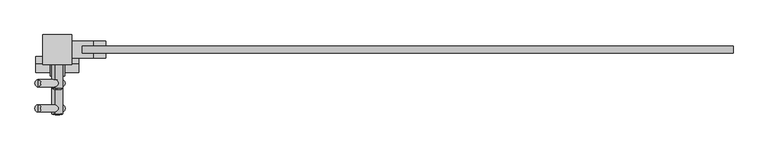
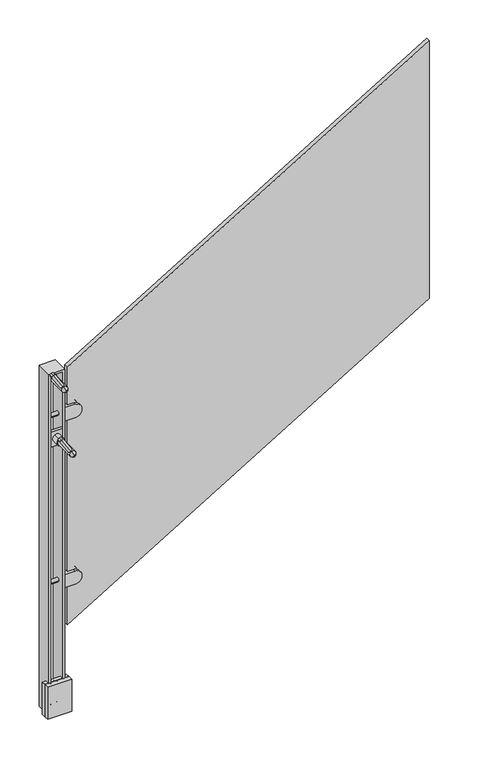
"""IFC4 building model written with IfcOpenShell, lengths in millimetres: proxy geometry, LIVERS_ICN - Glass Panel : LIVERS_ICN - Glass Panel."""

from ifc_helpers import new_model, si_unit, point, frame, origin, place, context, project, spatial, polyline, circle_curve, ellipse_curve, trimmed, outline, extrude, faceted_brep, source, transform, mapped, element, save
from ifc_brep_helpers import plane_surface, cylinder_surface, revolved_surface, advanced_brep


def building_element_proxy_f8103633(model_context):
    return source(origin(), model_context, "Body", "SolidModel", [
        advanced_brep(
        [(6.1227021, 60.3249609, 622.4662882), (12.8526767, 60.3249609, 611.6960774), (19.5826514, 60.3249609, 600.9258666), (6.1227021, 38.0999609, 622.4662882), (19.5826514, 38.0999609, 600.9258666), (12.8526767, 38.0999609, 611.6960774)],
        [
            (0, 1),
            (1, 2),
            (2, 0, circle_curve(frame((12.8526767, 60.3249609, 611.6960774), z_axis=(0.0, 1.0, 0.0), x_axis=(0.5299192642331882, 0.0, -0.8480480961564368)), 12.7)),
            (0, 2, circle_curve(frame((12.8526767, 60.3249609, 611.6960774), z_axis=(0.0, 1.0, 0.0), x_axis=(0.5299192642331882, 0.0, -0.8480480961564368)), 12.7)),
            (3, 0),
            (2, 4),
            (4, 3, circle_curve(frame((12.8526767, 38.0999609, 611.6960774), z_axis=(0.0, 1.0, 0.0), x_axis=(0.5299192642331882, 0.0, -0.8480480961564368)), 12.7)),
            (3, 4, circle_curve(frame((12.8526767, 38.0999609, 611.6960774), z_axis=(0.0, 1.0, 0.0), x_axis=(0.5299192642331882, 0.0, -0.8480480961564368)), 12.7)),
            (5, 3),
            (4, 5),
        ],
        [
            plane_surface(frame((12.8526767, 60.3249609, 611.6960774), z_axis=(0.0, 1.0000000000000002, 0.0), x_axis=(0.5299192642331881, 0.0, -0.8480480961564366))),
            cylinder_surface(frame((12.8526767, 69.3828283, 611.6960774), z_axis=(0.0, -1.0000000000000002, 0.0), x_axis=(0.5299192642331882, 0.0, -0.8480480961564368)), 12.7),
            plane_surface(frame((12.8526767, 38.0999609, 611.6960774), z_axis=(0.0, -1.0000000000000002, 0.0), x_axis=(0.5299192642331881, 0.0, -0.8480480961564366))),
        ],
        [
            (0, [[1, 2, 3]]),
            (0, [[-2, -1, 4]]),
            (1, [[5, -3, 6, 7]]),
            (1, [[-6, -4, -5, 8]]),
            (2, [[9, -7, 10]]),
            (2, [[-10, -8, -9]]),
        ],
    ),
        advanced_brep(
        [(-21.4149935, -25.4004131, 666.5358134), (-21.4149935, -19.0504161, 666.5358134), (-21.4149935, -12.7004191, 666.5358134), (21.1884318, -25.4004131, 598.3560808), (21.1884318, -12.7004191, 598.3560808), (21.1884318, -19.0504161, 598.3560808)],
        [
            (0, 1),
            (1, 2),
            (2, 0, circle_curve(frame((-21.4149935, -19.0504161, 666.5358134), z_axis=(-0.5299192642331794, 0.0, 0.8480480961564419), x_axis=(0.0, 1.0000000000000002, 0.0)), 6.349997)),
            (0, 2, circle_curve(frame((-21.4149935, -19.0504161, 666.5358134), z_axis=(-0.5299192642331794, 0.0, 0.8480480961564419), x_axis=(0.0, 1.0000000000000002, 0.0)), 6.349997)),
            (3, 0),
            (2, 4),
            (4, 3, circle_curve(frame((21.1884318, -19.0504161, 598.3560808), z_axis=(-0.5299192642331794, 0.0, 0.8480480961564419), x_axis=(0.0, 1.0000000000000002, 0.0)), 6.349997)),
            (3, 4, circle_curve(frame((21.1884318, -19.0504161, 598.3560808), z_axis=(-0.5299192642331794, 0.0, 0.8480480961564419), x_axis=(0.0, 1.0000000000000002, 0.0)), 6.349997)),
            (5, 3),
            (4, 5),
        ],
        [
            plane_surface(frame((-21.4149935, -19.0504161, 666.5358134), z_axis=(-0.5299192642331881, 0.0, 0.8480480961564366), x_axis=(0.0, 1.0, 0.0))),
            cylinder_surface(frame((-28.754909, -19.0504161, 678.2821334), z_axis=(0.5299192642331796, 0.0, -0.8480480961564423), x_axis=(0.0, 1.0000000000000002, 0.0)), 6.349997),
            plane_surface(frame((21.1884318, -19.0504161, 598.3560808), z_axis=(0.5299192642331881, 0.0, -0.8480480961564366), x_axis=(0.0, 1.0, 0.0))),
        ],
        [
            (0, [[1, 2, 3]]),
            (0, [[-2, -1, 4]]),
            (1, [[5, -3, 6, 7]]),
            (1, [[-6, -4, -5, 8]]),
            (2, [[9, -7, 10]]),
            (2, [[-10, -8, -9]]),
        ],
    ),
        advanced_brep(
        [(12.8526767, -30.1375464, 611.6960774), (7.8051957, -28.5500464, 619.7737355), (17.9001577, -28.5500464, 603.6184193), (7.8051957, 38.0999609, 619.7737355), (12.8526767, 38.0999609, 611.6960774), (17.9001577, 38.0999609, 603.6184193)],
        [
            (0, 1, circle_curve(frame((12.8526767, -0.7687964, 611.6960774), z_axis=(-0.848048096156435, 0.0, -0.5299192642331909), x_axis=(0.0, 1.0000000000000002, 0.0)), 29.36875)),
            (1, 2, circle_curve(frame((12.8526767, -28.5500464, 611.6960774), z_axis=(0.0, -1.0, 0.0), x_axis=(0.5299192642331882, 0.0, -0.8480480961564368)), 9.525)),
            (2, 0, circle_curve(frame((12.8526767, -0.7687964, 611.6960774), z_axis=(-0.8480480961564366, 0.0, -0.5299192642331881), x_axis=(0.0, 1.0000000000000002, 0.0)), 29.36875)),
            (2, 1, circle_curve(frame((12.8526767, -28.5500464, 611.6960774), z_axis=(0.0, -1.0, 0.0), x_axis=(0.5299192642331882, 0.0, -0.8480480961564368)), 9.525)),
            (3, 4),
            (4, 5),
            (5, 3, circle_curve(frame((12.8526767, 38.0999609, 611.6960774), z_axis=(0.0, 1.0, 0.0), x_axis=(0.5299192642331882, 0.0, -0.8480480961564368)), 9.525)),
            (3, 5, circle_curve(frame((12.8526767, 38.0999609, 611.6960774), z_axis=(0.0, 1.0, 0.0), x_axis=(0.5299192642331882, 0.0, -0.8480480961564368)), 9.525)),
            (1, 3),
            (5, 2),
        ],
        [
            revolved_surface(trimmed(ellipse_curve(frame((12.8526767, -0.7687964, 611.6960774), z_axis=(-0.8480480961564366, 0.0, -0.5299192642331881), x_axis=(0.0, 1.0000000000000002, 0.0)), 29.36875, 29.36875), [point((17.9001577, -28.5500464, 603.6184193))], [point((12.8526767, -30.1375464, 611.6960774))], True, "CARTESIAN"), (12.8526767, 30.3031204, 611.6960774), (0.0, -1.0000000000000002, 0.0)),
            plane_surface(frame((12.8526767, 38.0999609, 611.6960774), z_axis=(0.0, 1.0000000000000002, 0.0), x_axis=(0.5299192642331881, 0.0, -0.8480480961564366))),
            cylinder_surface(frame((12.8526767, 30.3031204, 611.6960774), z_axis=(0.0, -1.0000000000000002, 0.0), x_axis=(0.5299192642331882, 0.0, -0.8480480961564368)), 9.525),
        ],
        [
            (0, [[1, 2, 3]]),
            (0, [[-3, 4, -1]]),
            (1, [[5, 6, 7]]),
            (1, [[-6, -5, 8]]),
            (2, [[9, -7, 10, -2]]),
            (2, [[-10, -8, -9, -4]]),
        ],
    ),
        extrude(outline(polyline([(31.9026767, 66.6749609), (31.9026767, 60.3249609), (-6.1973233, 60.3249609), (-6.1973233, 66.6749609), (31.9026767, 66.6749609)])), frame((0.0, 0.0, 586.2960774), z_axis=(0.0, 0.0, 1.0), x_axis=(1.0, 0.0, 0.0)), (0.0, 0.0, 1.0), 50.8),
        advanced_brep(
        [(6.1227021, 15.875, 433.0809858), (12.8526767, 15.875, 422.3107749), (19.5826514, 15.875, 411.5405641), (6.1227021, -6.35, 433.0809858), (19.5826514, -6.35, 411.5405641), (12.8526767, -6.35, 422.3107749)],
        [
            (0, 1),
            (1, 2),
            (2, 0, circle_curve(frame((12.8526767, 15.875, 422.3107749), z_axis=(0.0, 1.0, 0.0), x_axis=(0.5299192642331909, 0.0, -0.8480480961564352)), 12.7)),
            (0, 2, circle_curve(frame((12.8526767, 15.875, 422.3107749), z_axis=(0.0, 1.0, 0.0), x_axis=(0.5299192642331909, 0.0, -0.8480480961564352)), 12.7)),
            (3, 0),
            (2, 4),
            (4, 3, circle_curve(frame((12.8526767, -6.35, 422.3107749), z_axis=(0.0, 1.0, 0.0), x_axis=(0.5299192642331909, 0.0, -0.8480480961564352)), 12.7)),
            (3, 4, circle_curve(frame((12.8526767, -6.35, 422.3107749), z_axis=(0.0, 1.0, 0.0), x_axis=(0.5299192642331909, 0.0, -0.8480480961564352)), 12.7)),
            (5, 3),
            (4, 5),
        ],
        [
            plane_surface(frame((12.8526767, 15.875, 422.3107749), z_axis=(0.0, 1.0000000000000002, 0.0), x_axis=(0.5299192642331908, 0.0, -0.848048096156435))),
            cylinder_surface(frame((12.8526767, 24.9328674, 422.3107749), z_axis=(0.0, -1.0000000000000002, 0.0), x_axis=(0.5299192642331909, 0.0, -0.8480480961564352)), 12.7),
            plane_surface(frame((12.8526767, -6.35, 422.3107749), z_axis=(0.0, -1.0000000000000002, 0.0), x_axis=(0.5299192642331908, 0.0, -0.848048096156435))),
        ],
        [
            (0, [[1, 2, 3]]),
            (0, [[-2, -1, 4]]),
            (1, [[5, -3, 6, 7]]),
            (1, [[-6, -4, -5, 8]]),
            (2, [[9, -7, 10]]),
            (2, [[-10, -8, -9]]),
        ],
    ),
        advanced_brep(
        [(-21.4149935, -69.850374, 477.1505109), (-21.4149935, -63.500377, 477.1505109), (-21.4149935, -57.15038, 477.1505109), (21.1884318, -69.850374, 408.9707783), (21.1884318, -57.15038, 408.9707783), (21.1884318, -63.500377, 408.9707783)],
        [
            (0, 1),
            (1, 2),
            (2, 0, circle_curve(frame((-21.4149935, -63.500377, 477.1505109), z_axis=(-0.529919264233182, 0.0, 0.8480480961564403), x_axis=(0.0, 1.0000000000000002, 0.0)), 6.349997)),
            (0, 2, circle_curve(frame((-21.4149935, -63.500377, 477.1505109), z_axis=(-0.529919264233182, 0.0, 0.8480480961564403), x_axis=(0.0, 1.0000000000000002, 0.0)), 6.349997)),
            (3, 0),
            (2, 4),
            (4, 3, circle_curve(frame((21.1884318, -63.500377, 408.9707783), z_axis=(-0.529919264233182, 0.0, 0.8480480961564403), x_axis=(0.0, 1.0000000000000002, 0.0)), 6.349997)),
            (3, 4, circle_curve(frame((21.1884318, -63.500377, 408.9707783), z_axis=(-0.529919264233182, 0.0, 0.8480480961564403), x_axis=(0.0, 1.0000000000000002, 0.0)), 6.349997)),
            (5, 3),
            (4, 5),
        ],
        [
            plane_surface(frame((-21.4149935, -63.500377, 477.1505109), z_axis=(-0.5299192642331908, 0.0, 0.848048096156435), x_axis=(0.0, 1.0, 0.0))),
            cylinder_surface(frame((-28.754909, -63.500377, 488.8968309), z_axis=(0.5299192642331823, 0.0, -0.8480480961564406), x_axis=(0.0, 1.0000000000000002, 0.0)), 6.349997),
            plane_surface(frame((21.1884318, -63.500377, 408.9707783), z_axis=(0.5299192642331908, 0.0, -0.848048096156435), x_axis=(0.0, 1.0, 0.0))),
        ],
        [
            (0, [[1, 2, 3]]),
            (0, [[-2, -1, 4]]),
            (1, [[5, -3, 6, 7]]),
            (1, [[-6, -4, -5, 8]]),
            (2, [[9, -7, 10]]),
            (2, [[-10, -8, -9]]),
        ],
    ),
        advanced_brep(
        [(12.8526767, -74.5875073, 422.3107749), (7.8051957, -73.0000073, 430.388433), (17.9001577, -73.0000073, 414.2331168), (7.8051957, -6.35, 430.388433), (12.8526767, -6.35, 422.3107749), (17.9001577, -6.35, 414.2331168)],
        [
            (0, 1, circle_curve(frame((12.8526767, -45.2187573, 422.3107749), z_axis=(-0.8480480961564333, 0.0, -0.5299192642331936), x_axis=(0.0, 1.0000000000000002, 0.0)), 29.36875)),
            (1, 2, circle_curve(frame((12.8526767, -73.0000073, 422.3107749), z_axis=(0.0, -1.0, 0.0), x_axis=(0.5299192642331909, 0.0, -0.8480480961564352)), 9.525)),
            (2, 0, circle_curve(frame((12.8526767, -45.2187573, 422.3107749), z_axis=(-0.848048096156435, 0.0, -0.5299192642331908), x_axis=(0.0, 1.0000000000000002, 0.0)), 29.36875)),
            (2, 1, circle_curve(frame((12.8526767, -73.0000073, 422.3107749), z_axis=(0.0, -1.0, 0.0), x_axis=(0.5299192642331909, 0.0, -0.8480480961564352)), 9.525)),
            (3, 4),
            (4, 5),
            (5, 3, circle_curve(frame((12.8526767, -6.35, 422.3107749), z_axis=(0.0, 1.0, 0.0), x_axis=(0.5299192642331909, 0.0, -0.8480480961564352)), 9.525)),
            (3, 5, circle_curve(frame((12.8526767, -6.35, 422.3107749), z_axis=(0.0, 1.0, 0.0), x_axis=(0.5299192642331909, 0.0, -0.8480480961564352)), 9.525)),
            (1, 3),
            (5, 2),
        ],
        [
            revolved_surface(trimmed(ellipse_curve(frame((12.8526767, -45.2187573, 422.3107749), z_axis=(-0.848048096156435, 0.0, -0.5299192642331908), x_axis=(0.0, 1.0000000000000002, 0.0)), 29.36875, 29.36875), [point((17.9001577, -73.0000073, 414.2331168))], [point((12.8526767, -74.5875073, 422.3107749))], True, "CARTESIAN"), (12.8526767, -14.1468405, 422.3107749), (0.0, -1.0000000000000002, 0.0)),
            plane_surface(frame((12.8526767, -6.35, 422.3107749), z_axis=(0.0, 1.0000000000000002, 0.0), x_axis=(0.5299192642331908, 0.0, -0.848048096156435))),
            cylinder_surface(frame((12.8526767, -14.1468405, 422.3107749), z_axis=(0.0, -1.0000000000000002, 0.0), x_axis=(0.5299192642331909, 0.0, -0.8480480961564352)), 9.525),
        ],
        [
            (0, [[1, 2, 3]]),
            (0, [[-3, 4, -1]]),
            (1, [[5, 6, 7]]),
            (1, [[-6, -5, 8]]),
            (2, [[9, -7, 10, -2]]),
            (2, [[-10, -8, -9, -4]]),
        ],
    ),
        extrude(outline(polyline([(31.9026767, 22.225), (31.9026767, 15.875), (-6.1973233, 15.875), (-6.1973233, 22.225), (31.9026767, 22.225)])), frame((0.0, 0.0, 396.9107749), z_axis=(0.0, 0.0, 1.0), x_axis=(1.0, 0.0, 0.0)), (0.0, 0.0, 1.0), 50.8),
        advanced_brep(
        [(38.2526767, 55.5624457, -53.2850579), (38.2526767, 55.5624457, -97.7350579), (38.2526767, 25.3999457, -97.7350579), (38.2526767, 25.3999457, -53.2850579), (76.4537707, 55.5624457, -53.2850579), (76.4537707, 55.5624457, -97.7350579), (76.4537707, 46.8311957, -97.7350579), (57.124596, 46.8311957, -97.7350579), (57.124596, 34.1311957, -97.7350579), (76.4537707, 34.1311957, -97.7350579), (76.4537707, 25.3999457, -97.7350579), (76.4537707, 25.3999457, -53.2850579), (76.4537707, 34.1311957, -53.2850579), (57.124596, 34.1311957, -53.2850579), (57.124596, 46.8311957, -53.2850579), (76.4537707, 46.8311957, -53.2850579)],
        [
            (0, 1),
            (1, 2),
            (2, 3),
            (3, 0),
            (0, 4),
            (4, 5, circle_curve(frame((76.4537707, 55.5624457, -75.5100579), z_axis=(0.0, 1.0, 0.0), x_axis=(0.0, 0.0, -1.0)), 22.225)),
            (5, 1),
            (5, 6),
            (6, 7),
            (7, 8),
            (8, 9),
            (9, 10),
            (10, 2),
            (10, 11, circle_curve(frame((76.4537707, 25.3999457, -75.5100579), z_axis=(0.0, -1.0, 0.0), x_axis=(0.0, 0.0, -1.0)), 22.225)),
            (11, 3),
            (11, 12),
            (12, 13),
            (13, 14),
            (14, 15),
            (15, 4),
            (13, 8),
            (7, 14),
            (6, 15, circle_curve(frame((76.4537707, 46.8311957, -75.5100579), z_axis=(0.0, -1.0, 0.0), x_axis=(0.0, 0.0, -1.0)), 22.225)),
            (12, 9, circle_curve(frame((76.4537707, 34.1311957, -75.5100579), z_axis=(0.0, 1.0, 0.0), x_axis=(0.0, 0.0, -1.0)), 22.225)),
        ],
        [
            plane_surface(frame((38.2526767, 55.5624457, -97.7350579), z_axis=(-1.0, 0.0, 0.0), x_axis=(0.0, 0.0, 1.0))),
            plane_surface(frame((98.7557575, 55.5624457, -53.2850579), z_axis=(0.0, 1.0, 0.0), x_axis=(-1.0, 0.0, 0.0))),
            plane_surface(frame((98.7557575, 55.5624457, -97.7350579), z_axis=(0.0, 0.0, -1.0), x_axis=(-1.0, 0.0, 0.0))),
            plane_surface(frame((98.7557575, 25.3999457, -97.7350579), z_axis=(0.0, -1.0, 0.0), x_axis=(-1.0, 0.0, 0.0))),
            plane_surface(frame((98.7557575, 25.3999457, -53.2850579), z_axis=(0.0, 0.0, 1.0), x_axis=(-1.0, 0.0, 0.0))),
            plane_surface(frame((57.124596, 46.8311957, -97.7350579), z_axis=(1.0, 0.0, 0.0), x_axis=(0.0, 0.0, 1.0))),
            plane_surface(frame((98.7557575, 46.8311957, -53.2850579), z_axis=(0.0, -1.0, 0.0), x_axis=(-1.0, 0.0, 0.0))),
            plane_surface(frame((98.7557575, 34.1311957, -97.7350579), z_axis=(0.0, 1.0, 0.0), x_axis=(-1.0, 0.0, 0.0))),
            cylinder_surface(frame((76.4537707, 55.5624457, -75.5100579), z_axis=(0.0, 1.0, 0.0), x_axis=(0.0, 0.0, -1.0)), 22.225),
        ],
        [
            (0, [[1, 2, 3, 4]]),
            (1, [[5, 6, 7, -1]]),
            (2, [[-7, 8, 9, 10, 11, 12, 13, -2]]),
            (3, [[-13, 14, 15, -3]]),
            (4, [[-15, 16, 17, 18, 19, 20, -5, -4]]),
            (5, [[-18, 21, -10, 22]]),
            (6, [[-9, 23, -19, -22]]),
            (7, [[-17, 24, -11, -21]]),
            (8, [[-20, -23, -8, -6]]),
            (8, [[-24, -16, -14, -12]]),
        ],
    ),
        advanced_brep(
        [(38.2526767, 55.5624457, 505.5149421), (38.2526767, 55.5624457, 461.0649421), (38.2526767, 25.3999457, 461.0649421), (38.2526767, 25.3999457, 505.5149421), (76.4537707, 55.5624457, 505.5149421), (76.4537707, 55.5624457, 461.0649421), (76.4537707, 46.8311957, 461.0649421), (57.124596, 46.8311957, 461.0649421), (57.124596, 34.1311957, 461.0649421), (76.4537707, 34.1311957, 461.0649421), (76.4537707, 25.3999457, 461.0649421), (76.4537707, 25.3999457, 505.5149421), (76.4537707, 34.1311957, 505.5149421), (57.124596, 34.1311957, 505.5149421), (57.124596, 46.8311957, 505.5149421), (76.4537707, 46.8311957, 505.5149421)],
        [
            (0, 1),
            (1, 2),
            (2, 3),
            (3, 0),
            (0, 4),
            (4, 5, circle_curve(frame((76.4537707, 55.5624457, 483.2899421), z_axis=(0.0, 1.0, 0.0), x_axis=(0.0, 0.0, -1.0)), 22.225)),
            (5, 1),
            (5, 6),
            (6, 7),
            (7, 8),
            (8, 9),
            (9, 10),
            (10, 2),
            (10, 11, circle_curve(frame((76.4537707, 25.3999457, 483.2899421), z_axis=(0.0, -1.0, 0.0), x_axis=(0.0, 0.0, -1.0)), 22.225)),
            (11, 3),
            (11, 12),
            (12, 13),
            (13, 14),
            (14, 15),
            (15, 4),
            (13, 8),
            (7, 14),
            (6, 15, circle_curve(frame((76.4537707, 46.8311957, 483.2899421), z_axis=(0.0, -1.0, 0.0), x_axis=(0.0, 0.0, -1.0)), 22.225)),
            (12, 9, circle_curve(frame((76.4537707, 34.1311957, 483.2899421), z_axis=(0.0, 1.0, 0.0), x_axis=(0.0, 0.0, -1.0)), 22.225)),
        ],
        [
            plane_surface(frame((38.2526767, 55.5624457, 461.0649421), z_axis=(-1.0, 0.0, 0.0), x_axis=(0.0, 0.0, 1.0))),
            plane_surface(frame((98.7557575, 55.5624457, 505.5149421), z_axis=(0.0, 1.0, 0.0), x_axis=(-1.0, 0.0, 0.0))),
            plane_surface(frame((98.7557575, 55.5624457, 461.0649421), z_axis=(0.0, 0.0, -1.0), x_axis=(-1.0, 0.0, 0.0))),
            plane_surface(frame((98.7557575, 25.3999457, 461.0649421), z_axis=(0.0, -1.0, 0.0), x_axis=(-1.0, 0.0, 0.0))),
            plane_surface(frame((98.7557575, 25.3999457, 505.5149421), z_axis=(0.0, 0.0, 1.0), x_axis=(-1.0, 0.0, 0.0))),
            plane_surface(frame((57.124596, 46.8311957, 461.0649421), z_axis=(1.0, 0.0, 0.0), x_axis=(0.0, 0.0, 1.0))),
            plane_surface(frame((98.7557575, 46.8311957, 505.5149421), z_axis=(0.0, -1.0, 0.0), x_axis=(-1.0, 0.0, 0.0))),
            plane_surface(frame((98.7557575, 34.1311957, 461.0649421), z_axis=(0.0, 1.0, 0.0), x_axis=(-1.0, 0.0, 0.0))),
            cylinder_surface(frame((76.4537707, 55.5624457, 483.2899421), z_axis=(0.0, 1.0, 0.0), x_axis=(0.0, 0.0, -1.0)), 22.225),
        ],
        [
            (0, [[1, 2, 3, 4]]),
            (1, [[5, 6, 7, -1]]),
            (2, [[-7, 8, 9, 10, 11, 12, 13, -2]]),
            (3, [[-13, 14, 15, -3]]),
            (4, [[-15, 16, 17, 18, 19, 20, -5, -4]]),
            (5, [[-18, 21, -10, 22]]),
            (6, [[-9, 23, -19, -22]]),
            (7, [[-17, 24, -11, -21]]),
            (8, [[-20, -23, -8, -6]]),
            (8, [[-24, -16, -14, -12]]),
        ],
    ),
        advanced_brep(
        [(12.8526767, 28.575, -492.1760914), (12.8526767, 29.7562407, -492.1760914), (12.8526767, 29.7562407, -469.9510802), (12.8526767, 28.575, -469.9510802), (12.8526767, 28.575, -481.0635858), (12.8526767, 32.325, -486.6760914), (12.8526767, 30.8816229, -481.0635858), (12.8526767, 32.325, -475.4510802), (12.8526767, 34.8740117, -486.6760914), (12.8526767, 34.8740117, -475.4510802), (12.8526767, 33.8500285, -489.6240978), (12.8526767, 33.8500285, -472.5030739), (12.8526767, 31.8562692, -491.3823737), (12.8526767, 31.8562692, -470.7447979)],
        [
            (0, 1),
            (1, 2, circle_curve(frame((12.8526767, 29.7562407, -481.0635858), z_axis=(0.0, -1.0, 0.0), x_axis=(0.0, 0.0, 1.0)), 11.1125056)),
            (2, 3),
            (3, 0, circle_curve(frame((12.8526767, 28.575, -481.0635858), z_axis=(0.0, 1.0, 0.0), x_axis=(0.0, 0.0, 1.0)), 11.1125056)),
            (2, 1, circle_curve(frame((12.8526767, 29.7562407, -481.0635858), z_axis=(0.0, -1.0, 0.0), x_axis=(0.0, 0.0, 1.0)), 11.1125056)),
            (0, 3, circle_curve(frame((12.8526767, 28.575, -481.0635858), z_axis=(0.0, 1.0, 0.0), x_axis=(0.0, 0.0, 1.0)), 11.1125056)),
            (4, 0),
            (3, 4),
            (5, 6),
            (6, 7),
            (7, 5, circle_curve(frame((12.8526767, 32.325, -481.0635858), z_axis=(0.0, 1.0, 0.0), x_axis=(0.0, 0.0, 1.0)), 5.6125056)),
            (5, 7, circle_curve(frame((12.8526767, 32.325, -481.0635858), z_axis=(0.0, 1.0, 0.0), x_axis=(0.0, 0.0, 1.0)), 5.6125056)),
            (8, 5),
            (7, 9),
            (9, 8, circle_curve(frame((12.8526767, 34.8740117, -481.0635858), z_axis=(0.0, 1.0, 0.0), x_axis=(0.0, 0.0, 1.0)), 5.6125056)),
            (8, 9, circle_curve(frame((12.8526767, 34.8740117, -481.0635858), z_axis=(0.0, 1.0, 0.0), x_axis=(0.0, 0.0, 1.0)), 5.6125056)),
            (10, 8, circle_curve(frame((12.8526767, 31.75, -487.2428155), z_axis=(1.0, 0.0, 0.0), x_axis=(0.0, -1.0, 0.0)), 3.175)),
            (9, 11, circle_curve(frame((12.8526767, 31.75, -474.8843562), z_axis=(1.0, 0.0, 0.0), x_axis=(0.0, -1.0, 0.0)), 3.175)),
            (11, 10, circle_curve(frame((12.8526767, 33.8500285, -481.0635858), z_axis=(0.0, 1.0, 0.0), x_axis=(0.0, 0.0, 1.0)), 8.560512)),
            (10, 11, circle_curve(frame((12.8526767, 33.8500285, -481.0635858), z_axis=(0.0, 1.0, 0.0), x_axis=(0.0, 0.0, 1.0)), 8.560512)),
            (12, 10),
            (11, 13),
            (13, 12, circle_curve(frame((12.8526767, 31.8562692, -481.0635858), z_axis=(0.0, 1.0, 0.0), x_axis=(0.0, 0.0, 1.0)), 10.3187879)),
            (12, 13, circle_curve(frame((12.8526767, 31.8562692, -481.0635858), z_axis=(0.0, 1.0, 0.0), x_axis=(0.0, 0.0, 1.0)), 10.3187879)),
            (1, 12, circle_curve(frame((12.8526767, 29.7562407, -489.0010914), z_axis=(1.0, 0.0, 0.0), x_axis=(0.0, -1.0, 0.0)), 3.175)),
            (13, 2, circle_curve(frame((12.8526767, 29.7562407, -473.1260802), z_axis=(1.0, 0.0, 0.0), x_axis=(0.0, -1.0, 0.0)), 3.175)),
        ],
        [
            cylinder_surface(frame((12.8526767, 28.575, -481.0635858), z_axis=(0.0, -1.0, 0.0), x_axis=(0.0, 0.0, 1.0)), 11.1125056),
            plane_surface(frame((12.8526767, 28.575, -481.0635858), z_axis=(0.0, -1.0, 0.0), x_axis=(0.0, 0.0, 1.0))),
            revolved_surface(polyline([(12.8526767, 30.8816229, -481.0635858), (12.8526767, 32.325, -475.4510802)]), (12.8526767, 28.575, -481.0635858), (0.0, -1.0, 0.0)),
            revolved_surface(polyline([(12.8526767, 32.325, -475.4510802), (12.8526767, 34.8740117, -475.4510802)]), (12.8526767, 28.575, -481.0635858), (0.0, -1.0, 0.0)),
            revolved_surface(trimmed(ellipse_curve(frame((12.8526767, 31.75, -474.8843562), z_axis=(1.0, 0.0, 0.0), x_axis=(0.0, -1.0, 0.0)), 3.175, 3.175), [point((12.8526767, 34.8740117, -475.4510802))], [point((12.8526767, 33.8500285, -472.5030739))], True, "CARTESIAN"), (12.8526767, 28.575, -481.0635858), (0.0, -1.0, 0.0)),
            revolved_surface(polyline([(12.8526767, 33.8500285, -472.5030739), (12.8526767, 31.8562692, -470.7447979)]), (12.8526767, 28.575, -481.0635858), (0.0, -1.0, 0.0)),
            revolved_surface(trimmed(ellipse_curve(frame((12.8526767, 29.7562407, -473.1260802), z_axis=(1.0, 0.0, 0.0), x_axis=(0.0, -1.0, 0.0)), 3.175, 3.175), [point((12.8526767, 31.8562692, -470.7447979))], [point((12.8526767, 29.7562407, -469.9510802))], True, "CARTESIAN"), (12.8526767, 28.575, -481.0635858), (0.0, -1.0, 0.0)),
        ],
        [
            (0, [[1, 2, 3, 4]]),
            (0, [[-3, 5, -1, 6]]),
            (1, [[7, -4, 8]]),
            (1, [[-8, -6, -7]]),
            (2, [[9, 10, 11]]),
            (2, [[-10, -9, 12]]),
            (3, [[13, -11, 14, 15]]),
            (3, [[-14, -12, -13, 16]]),
            (4, [[17, -15, 18, 19]]),
            (4, [[-18, -16, -17, 20]]),
            (5, [[21, -19, 22, 23]]),
            (5, [[-22, -20, -21, 24]]),
            (6, [[25, -23, 26, -2]]),
            (6, [[-26, -24, -25, -5]]),
        ],
    ),
        advanced_brep(
        [(12.8526767, 28.575, -422.3260914), (12.8526767, 29.7562407, -422.3260914), (12.8526767, 29.7562407, -400.1010802), (12.8526767, 28.575, -400.1010802), (12.8526767, 28.575, -411.2135858), (12.8526767, 33.8500285, -419.7740978), (12.8526767, 34.8740117, -416.8260914), (12.8526767, 34.8740117, -405.6010802), (12.8526767, 33.8500285, -402.6530739), (12.8526767, 31.8562692, -421.5323737), (12.8526767, 31.8562692, -400.8947979), (12.8526767, 32.325, -416.8260914), (12.8526767, 30.8816229, -411.2135858), (12.8526767, 32.325, -405.6010802)],
        [
            (0, 1),
            (1, 2, circle_curve(frame((12.8526767, 29.7562407, -411.2135858), z_axis=(0.0, -1.0, 0.0), x_axis=(0.0, 0.0, 1.0)), 11.1125056)),
            (2, 3),
            (3, 0, circle_curve(frame((12.8526767, 28.575, -411.2135858), z_axis=(0.0, 1.0, 0.0), x_axis=(0.0, 0.0, 1.0)), 11.1125056)),
            (2, 1, circle_curve(frame((12.8526767, 29.7562407, -411.2135858), z_axis=(0.0, -1.0, 0.0), x_axis=(0.0, 0.0, 1.0)), 11.1125056)),
            (0, 3, circle_curve(frame((12.8526767, 28.575, -411.2135858), z_axis=(0.0, 1.0, 0.0), x_axis=(0.0, 0.0, 1.0)), 11.1125056)),
            (4, 0),
            (3, 4),
            (5, 6, circle_curve(frame((12.8526767, 31.75, -417.3928155), z_axis=(1.0, 0.0, 0.0), x_axis=(0.0, -1.0, 0.0)), 3.175)),
            (6, 7, circle_curve(frame((12.8526767, 34.8740117, -411.2135858), z_axis=(0.0, -1.0, 0.0), x_axis=(0.0, 0.0, 1.0)), 5.6125056)),
            (7, 8, circle_curve(frame((12.8526767, 31.75, -405.0343562), z_axis=(1.0, 0.0, 0.0), x_axis=(0.0, -1.0, 0.0)), 3.175)),
            (8, 5, circle_curve(frame((12.8526767, 33.8500285, -411.2135858), z_axis=(0.0, 1.0, 0.0), x_axis=(0.0, 0.0, 1.0)), 8.560512)),
            (7, 6, circle_curve(frame((12.8526767, 34.8740117, -411.2135858), z_axis=(0.0, -1.0, 0.0), x_axis=(0.0, 0.0, 1.0)), 5.6125056)),
            (5, 8, circle_curve(frame((12.8526767, 33.8500285, -411.2135858), z_axis=(0.0, 1.0, 0.0), x_axis=(0.0, 0.0, 1.0)), 8.560512)),
            (9, 5),
            (8, 10),
            (10, 9, circle_curve(frame((12.8526767, 31.8562692, -411.2135858), z_axis=(0.0, 1.0, 0.0), x_axis=(0.0, 0.0, 1.0)), 10.3187879)),
            (9, 10, circle_curve(frame((12.8526767, 31.8562692, -411.2135858), z_axis=(0.0, 1.0, 0.0), x_axis=(0.0, 0.0, 1.0)), 10.3187879)),
            (1, 9, circle_curve(frame((12.8526767, 29.7562407, -419.1510914), z_axis=(1.0, 0.0, 0.0), x_axis=(0.0, -1.0, 0.0)), 3.175)),
            (10, 2, circle_curve(frame((12.8526767, 29.7562407, -403.2760802), z_axis=(1.0, 0.0, 0.0), x_axis=(0.0, -1.0, 0.0)), 3.175)),
            (11, 12),
            (12, 13),
            (13, 11, circle_curve(frame((12.8526767, 32.325, -411.2135858), z_axis=(0.0, 1.0, 0.0), x_axis=(0.0, 0.0, 1.0)), 5.6125056)),
            (11, 13, circle_curve(frame((12.8526767, 32.325, -411.2135858), z_axis=(0.0, 1.0, 0.0), x_axis=(0.0, 0.0, 1.0)), 5.6125056)),
            (6, 11),
            (13, 7),
        ],
        [
            cylinder_surface(frame((12.8526767, 28.575, -411.2135858), z_axis=(0.0, -1.0, 0.0), x_axis=(0.0, 0.0, 1.0)), 11.1125056),
            plane_surface(frame((12.8526767, 28.575, -411.2135858), z_axis=(0.0, -1.0, 0.0), x_axis=(0.0, 0.0, 1.0))),
            revolved_surface(trimmed(ellipse_curve(frame((12.8526767, 31.75, -405.0343562), z_axis=(1.0, 0.0, 0.0), x_axis=(0.0, -1.0, 0.0)), 3.175, 3.175), [point((12.8526767, 34.8740117, -405.6010802))], [point((12.8526767, 33.8500285, -402.6530739))], True, "CARTESIAN"), (12.8526767, 28.575, -411.2135858), (0.0, -1.0, 0.0)),
            revolved_surface(polyline([(12.8526767, 33.8500285, -402.6530739), (12.8526767, 31.8562692, -400.8947979)]), (12.8526767, 28.575, -411.2135858), (0.0, -1.0, 0.0)),
            revolved_surface(trimmed(ellipse_curve(frame((12.8526767, 29.7562407, -403.2760802), z_axis=(1.0, 0.0, 0.0), x_axis=(0.0, -1.0, 0.0)), 3.175, 3.175), [point((12.8526767, 31.8562692, -400.8947979))], [point((12.8526767, 29.7562407, -400.1010802))], True, "CARTESIAN"), (12.8526767, 28.575, -411.2135858), (0.0, -1.0, 0.0)),
            revolved_surface(polyline([(12.8526767, 30.8816229, -411.2135858), (12.8526767, 32.325, -405.6010802)]), (12.8526767, 28.575, -411.2135858), (0.0, -1.0, 0.0)),
            revolved_surface(polyline([(12.8526767, 32.325, -405.60108019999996), (12.8526767, 34.8740117, -405.60108019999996)]), (12.8526767, 28.575, -411.2135858), (0.0, -1.0, 0.0)),
        ],
        [
            (0, [[1, 2, 3, 4]]),
            (0, [[-3, 5, -1, 6]]),
            (1, [[7, -4, 8]]),
            (1, [[-8, -6, -7]]),
            (2, [[9, 10, 11, 12]]),
            (2, [[-11, 13, -9, 14]]),
            (3, [[15, -12, 16, 17]]),
            (3, [[-16, -14, -15, 18]]),
            (4, [[19, -17, 20, -2]]),
            (4, [[-20, -18, -19, -5]]),
            (5, [[21, 22, 23]]),
            (5, [[-22, -21, 24]]),
            (6, [[25, -23, 26, -10]]),
            (6, [[-26, -24, -25, -13]]),
        ],
    ),
        faceted_brep([(38.2526767, 14.2874305, 643.4460774), (38.2526767, 14.2874305, -500.1135858), (38.2526767, 15.875, -500.1135858), (38.2526767, 15.875, -392.1635858), (38.2526767, 28.575, -392.1635858), (38.2526767, 28.575, -500.1135858), (38.2526767, 66.6749609, -500.1135858), (38.2526767, 66.6749609, 643.4460774), (31.9026767, 66.6749609, -500.1135858), (31.9026767, 28.575, -500.1135858), (31.9026767, 28.575, -392.1635858), (31.9026767, 15.875, -392.1635858), (31.9026767, 15.875, -500.1135858), (31.9026767, 14.2874305, -500.1135858), (31.9026767, 14.2874305, 637.0960774), (31.9026767, 66.6749609, 637.0960774), (-25.2473233, 28.575, -500.1135858), (-12.5473233, 28.575, -500.1135858), (-12.5473233, 66.6749609, -500.1135858), (-6.1973233, 66.6749609, -500.1135858), (-6.1973233, 28.575, -500.1135858), (50.9526767, 28.575, -500.1135858), (50.9526767, 15.875, -500.1135858), (-6.1973233, 15.875, -500.1135858), (-6.1973233, 14.2874305, -500.1135858), (-12.5473233, 14.2874305, -500.1135858), (-12.5473233, 15.875, -500.1135858), (-25.2473233, 15.875, -500.1135858), (-12.5473233, 14.2874305, 643.4460774), (-6.1973233, 14.2874305, 637.0960774), (-12.5473233, 66.6749609, 643.4460774), (-6.1973233, 66.6749609, 637.0960774), (-6.1973233, 15.875, -392.1635858), (-6.1973233, 28.575, -392.1635858), (-12.5473233, 28.575, -392.1635858), (-12.5473233, 15.875, -392.1635858), (50.9526767, 28.575, -392.1635858), (-25.2473233, 28.575, -392.1635858), (-25.2473233, 15.875, -392.1635858), (50.9526767, 15.875, -392.1635858)], [[[0, 1, 2, 3, 4, 5, 6, 7]], [[8, 9, 10, 11, 12, 13, 14, 15]], [[16, 17, 18, 19, 20, 9, 8, 6, 5, 21, 22, 2, 1, 13, 12, 23, 24, 25, 26, 27]], [[1, 0, 28, 25, 24, 29, 14, 13]], [[7, 30, 28, 0]], [[8, 15, 31, 19, 18, 30, 7, 6]], [[24, 23, 32, 33, 20, 19, 31, 29]], [[14, 29, 31, 15]], [[30, 18, 17, 34, 35, 26, 25, 28]], [[20, 33, 10, 9]], [[21, 5, 4, 36]], [[37, 34, 17, 16]], [[12, 11, 32, 23]], [[27, 26, 35, 38]], [[39, 3, 2, 22]], [[36, 39, 22, 21]], [[33, 32, 11, 10]], [[36, 4, 3, 39]], [[38, 35, 34, 37]], [[16, 27, 38, 37]]]),
        extrude(outline(polyline([(50.9526767, 15.875), (50.9526767, 0.0), (-25.2473233, 0.0), (-25.2473233, 15.875), (50.9526767, 15.875)])), frame((0.0, 0.0, -500.1135858), z_axis=(0.0, 0.0, 1.0), x_axis=(1.0, 0.0, 0.0)), (0.0, 0.0, 1.0), 107.95),
        advanced_brep(
        [(-6.1973233, 41.2749421, -75.5100524), (-6.1973233, 47.5989918, -75.5100524), (-6.1973233, 34.9508924, -75.5100524), (31.916663, 47.5989918, -75.5100524), (31.916663, 41.2749421, -75.5100524), (31.916663, 34.9508924, -75.5100524)],
        [
            (0, 1),
            (1, 2, circle_curve(frame((-6.1973233, 41.2749421, -75.5100524), z_axis=(-1.0, 0.0, 0.0), x_axis=(0.0, -1.0, 0.0)), 6.3240497)),
            (2, 0),
            (2, 1, circle_curve(frame((-6.1973233, 41.2749421, -75.5100524), z_axis=(-1.0, 0.0, 0.0), x_axis=(0.0, -1.0, 0.0)), 6.3240497)),
            (3, 4),
            (4, 5),
            (5, 3, circle_curve(frame((31.916663, 41.2749421, -75.5100524), z_axis=(1.0, 0.0, 0.0), x_axis=(0.0, -1.0, 0.0)), 6.3240497)),
            (3, 5, circle_curve(frame((31.916663, 41.2749421, -75.5100524), z_axis=(1.0, 0.0, 0.0), x_axis=(0.0, -1.0, 0.0)), 6.3240497)),
            (1, 3),
            (5, 2),
        ],
        [
            plane_surface(frame((-6.1973233, 41.2749421, -75.5100524), z_axis=(-1.0, 0.0, 0.0), x_axis=(0.0, -1.0, 0.0))),
            plane_surface(frame((31.916663, 41.2749421, -75.5100524), z_axis=(1.0, 0.0, 0.0), x_axis=(0.0, -1.0, 0.0))),
            cylinder_surface(frame((-6.1973233, 41.2749421, -75.5100524), z_axis=(-1.0, 0.0, 0.0), x_axis=(0.0, -1.0, 0.0)), 6.3240497),
        ],
        [
            (0, [[1, 2, 3]]),
            (0, [[-3, 4, -1]]),
            (1, [[5, 6, 7]]),
            (1, [[-6, -5, 8]]),
            (2, [[9, -7, 10, -2]]),
            (2, [[-10, -8, -9, -4]]),
        ],
    ),
        advanced_brep(
        [(-6.1973233, 41.2749421, 483.2899476), (-6.1973233, 47.5989918, 483.2899476), (-6.1973233, 34.9508924, 483.2899476), (31.916663, 47.5989918, 483.2899476), (31.916663, 41.2749421, 483.2899476), (31.916663, 34.9508924, 483.2899476)],
        [
            (0, 1),
            (1, 2, circle_curve(frame((-6.1973233, 41.2749421, 483.2899476), z_axis=(-1.0, 0.0, 0.0), x_axis=(0.0, -1.0, 0.0)), 6.3240497)),
            (2, 0),
            (2, 1, circle_curve(frame((-6.1973233, 41.2749421, 483.2899476), z_axis=(-1.0, 0.0, 0.0), x_axis=(0.0, -1.0, 0.0)), 6.3240497)),
            (3, 4),
            (4, 5),
            (5, 3, circle_curve(frame((31.916663, 41.2749421, 483.2899476), z_axis=(1.0, 0.0, 0.0), x_axis=(0.0, -1.0, 0.0)), 6.3240497)),
            (3, 5, circle_curve(frame((31.916663, 41.2749421, 483.2899476), z_axis=(1.0, 0.0, 0.0), x_axis=(0.0, -1.0, 0.0)), 6.3240497)),
            (1, 3),
            (5, 2),
        ],
        [
            plane_surface(frame((-6.1973233, 41.2749421, 483.2899476), z_axis=(-1.0, 0.0, 0.0), x_axis=(0.0, -1.0, 0.0))),
            plane_surface(frame((31.916663, 41.2749421, 483.2899476), z_axis=(1.0, 0.0, 0.0), x_axis=(0.0, -1.0, 0.0))),
            cylinder_surface(frame((-6.1973233, 41.2749421, 483.2899476), z_axis=(-1.0, 0.0, 0.0), x_axis=(0.0, -1.0, 0.0)), 6.3240497),
        ],
        [
            (0, [[1, 2, 3]]),
            (0, [[-3, 4, -1]]),
            (1, [[5, 6, 7]]),
            (1, [[-6, -5, 8]]),
            (2, [[9, -7, 10, -2]]),
            (2, [[-10, -8, -9, -4]]),
        ],
    ),
        extrude(outline(polyline([(461.3961499, 1205.9179921), (1324.9961499, 1205.9179921), (631.8861491, 57.124596), (-231.7138509, 57.124596), (461.3961499, 1205.9179921)])), frame((0.0, 34.1309994, 0.0), z_axis=(0.0, 1.0, 0.0), x_axis=(0.0, 0.0, 1.0)), (0.0, 0.0, 1.0), 12.7001962),
    ])


if __name__ == "__main__":
    model = new_model("IFC4")
    model_context = context("Model", 3, world=origin())
    ifc_project = project(units=[si_unit("LENGTHUNIT", "METRE", prefix="MILLI")], contexts=[model_context])
    site = spatial("IfcSite", under=ifc_project)
    building = spatial("IfcBuilding", under=site)
    placement = place(None, origin())
    building_element_proxy_shape = building_element_proxy_f8103633(model_context)
    element("IfcBuildingElementProxy", 1, Name="LIVERS_ICN - Glass Panel : LIVERS_ICN - Glass Panel", ObjectType="LIVERS_ICN - Glass Panel : LIVERS_ICN - Glass Panel", at=placement, inside=building, context=model_context, shape_type="MappedRepresentation", body=[
        mapped(building_element_proxy_shape, transform((0.0, 0.0, 0.0), x_axis=(1.0, 0.0, 0.0), y_axis=(0.0, 1.0, 0.0), z_axis=(0.0, 0.0, 1.0))),
    ])
    save(model, "model.ifc")
